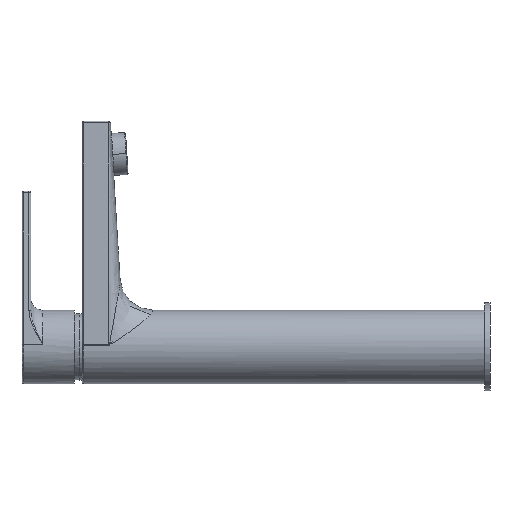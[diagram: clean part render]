
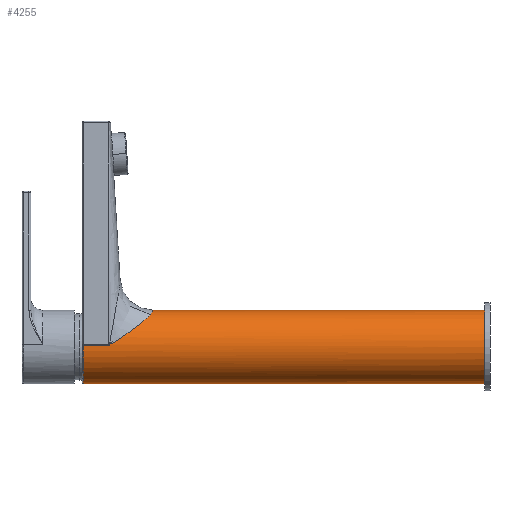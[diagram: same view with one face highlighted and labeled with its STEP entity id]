
A CAD part, left-side view. The second image highlights one B-rep face of the part: STEP entity #4255.
In plain terms, the highlighted cylindrical face has radius 21.01 mm (diameter 42.02 mm), a partial arc.
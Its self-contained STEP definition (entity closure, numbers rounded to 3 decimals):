
#7 = ORIENTED_EDGE ( 'NONE', *, *, #4767, .T. ) ;
#79 = CARTESIAN_POINT ( 'NONE',  ( -7.087, 83.268, 44.795 ) ) ;
#85 = CARTESIAN_POINT ( 'NONE',  ( -20.987, 108.052, 26. ) ) ;
#169 = CARTESIAN_POINT ( 'NONE',  ( 0., 82.997, 46.022 ) ) ;
#190 = CARTESIAN_POINT ( 'NONE',  ( -11.985, 85.23, 42.272 ) ) ;
#312 = CARTESIAN_POINT ( 'NONE',  ( -20.857, 104.899, 27.59 ) ) ;
#424 = CARTESIAN_POINT ( 'NONE',  ( -7.512, 83.341, 44.638 ) ) ;
#427 = VERTEX_POINT ( 'NONE', #5377 ) ;
#537 = CARTESIAN_POINT ( 'NONE',  ( -20.984, 107.658, 26.049 ) ) ;
#564 = ORIENTED_EDGE ( 'NONE', *, *, #2515, .T. ) ;
#639 = CARTESIAN_POINT ( 'NONE',  ( 0., 122.5, 4.002 ) ) ;
#645 = CARTESIAN_POINT ( 'NONE',  ( -20.987, 107.995, 25.998 ) ) ;
#860 = CARTESIAN_POINT ( 'NONE',  ( -11.659, 85.007, 42.495 ) ) ;
#897 = ORIENTED_EDGE ( 'NONE', *, *, #2771, .F. ) ;
#935 = CARTESIAN_POINT ( 'NONE',  ( 0., -107.004, 4.002 ) ) ;
#987 = CARTESIAN_POINT ( 'NONE',  ( -15.267, 88.474, 39.45 ) ) ;
#1084 = FACE_OUTER_BOUND ( 'NONE', #2015, .T. ) ;
#1102 = CARTESIAN_POINT ( 'NONE',  ( -14.287, 87.295, 40.421 ) ) ;
#1324 = CARTESIAN_POINT ( 'NONE',  ( -8.75, 83.621, 44.134 ) ) ;
#1331 = CARTESIAN_POINT ( 'NONE',  ( -19.588, 97.505, 32.629 ) ) ;
#1424 = VECTOR ( 'NONE', #2492, 1000. ) ;
#1452 = CARTESIAN_POINT ( 'NONE',  ( -18.124, 93.289, 35.701 ) ) ;
#1682 = CARTESIAN_POINT ( 'NONE',  ( -18.918, 95.37, 34.169 ) ) ;
#1746 = DIRECTION ( 'NONE',  ( 0., 0., 1. ) ) ;
#1885 = VERTEX_POINT ( 'NONE', #935 ) ;
#1900 = CARTESIAN_POINT ( 'NONE',  ( -20.534, 101.887, 29.573 ) ) ;
#1989 = CARTESIAN_POINT ( 'NONE',  ( 0., 123., 46.022 ) ) ;
#2011 = CARTESIAN_POINT ( 'NONE',  ( -0.901, 82.996, 46.007 ) ) ;
#2015 = EDGE_LOOP ( 'NONE', ( #897, #5226, #2719, #564, #7, #5444 ) ) ;
#2017 = CARTESIAN_POINT ( 'NONE',  ( -19.779, 98.225, 32.117 ) ) ;
#2116 = CARTESIAN_POINT ( 'NONE',  ( -5.803, 83.114, 45.21 ) ) ;
#2232 = CARTESIAN_POINT ( 'NONE',  ( -12.923, 85.938, 41.595 ) ) ;
#2343 = CARTESIAN_POINT ( 'NONE',  ( -9.526, 83.884, 43.757 ) ) ;
#2448 = VERTEX_POINT ( 'NONE', #169 ) ;
#2492 = DIRECTION ( 'NONE',  ( 0., -1., 0. ) ) ;
#2515 = EDGE_CURVE ( 'NONE', #4935, #4908, #3202, .T. ) ;
#2546 = CARTESIAN_POINT ( 'NONE',  ( 0., 123., 25.012 ) ) ;
#2578 = CARTESIAN_POINT ( 'NONE',  ( -20.928, 106.053, 26.877 ) ) ;
#2689 = CARTESIAN_POINT ( 'NONE',  ( -17.494, 91.948, 36.715 ) ) ;
#2713 = DIRECTION ( 'NONE',  ( 0., 1., 0. ) ) ;
#2719 = ORIENTED_EDGE ( 'NONE', *, *, #5597, .T. ) ;
#2728 = CARTESIAN_POINT ( 'NONE',  ( 0., 123., 4.002 ) ) ;
#2771 = EDGE_CURVE ( 'NONE', #2448, #6238, #6073, .T. ) ;
#2898 = CARTESIAN_POINT ( 'NONE',  ( -3.61, 83.007, 45.729 ) ) ;
#3124 = CARTESIAN_POINT ( 'NONE',  ( -15.031, 88.172, 39.695 ) ) ;
#3184 = CIRCLE ( 'NONE', #5414, 21.01 ) ;
#3202 = CIRCLE ( 'NONE', #6362, 21.01 ) ;
#3227 = CARTESIAN_POINT ( 'NONE',  ( -10.974, 84.589, 42.933 ) ) ;
#3316 = DIRECTION ( 'NONE',  ( 0., -1., 0. ) ) ;
#3350 = CARTESIAN_POINT ( 'NONE',  ( -20.948, 106.439, 26.642 ) ) ;
#3373 = CARTESIAN_POINT ( 'NONE',  ( 0., -107.004, 25.012 ) ) ;
#3454 = CARTESIAN_POINT ( 'NONE',  ( -0.45, 82.997, 46.022 ) ) ;
#3460 = CARTESIAN_POINT ( 'NONE',  ( -20.986, 107.826, 26.014 ) ) ;
#3562 = CARTESIAN_POINT ( 'NONE',  ( -20.976, 107.236, 26.211 ) ) ;
#3647 = AXIS2_PLACEMENT_3D ( 'NONE', #2546, #3316, #6522 ) ;
#3778 = CARTESIAN_POINT ( 'NONE',  ( -20.986, 107.882, 26.006 ) ) ;
#3887 = CARTESIAN_POINT ( 'NONE',  ( -6.234, 83.154, 45.081 ) ) ;
#4003 = CARTESIAN_POINT ( 'NONE',  ( -20.285, 100.406, 30.588 ) ) ;
#4107 = CARTESIAN_POINT ( 'NONE',  ( -13.493, 86.46, 41.132 ) ) ;
#4255 = ADVANCED_FACE ( 'NONE', ( #1084 ), #5618, .T. ) ;
#4336 = CARTESIAN_POINT ( 'NONE',  ( -20.983, 107.55, 26.085 ) ) ;
#4364 = LINE ( 'NONE', #5908, #4430 ) ;
#4430 = VECTOR ( 'NONE', #5250, 1000. ) ;
#4538 = CARTESIAN_POINT ( 'NONE',  ( 0., 82.997, 46.022 ) ) ;
#4574 = DIRECTION ( 'NONE',  ( 0., 0., 1. ) ) ;
#4655 = CARTESIAN_POINT ( 'NONE',  ( -20.79, 104.142, 28.082 ) ) ;
#4767 = EDGE_CURVE ( 'NONE', #4908, #1885, #5466, .T. ) ;
#4908 = VERTEX_POINT ( 'NONE', #639 ) ;
#4921 = EDGE_CURVE ( 'NONE', #2448, #427, #5990, .T. ) ;
#4935 = VERTEX_POINT ( 'NONE', #5431 ) ;
#4981 = CARTESIAN_POINT ( 'NONE',  ( -14.541, 87.582, 40.181 ) ) ;
#5096 = CARTESIAN_POINT ( 'NONE',  ( -2.258, 82.997, 45.905 ) ) ;
#5102 = CARTESIAN_POINT ( 'NONE',  ( -20.987, 108.109, 26. ) ) ;
#5226 = ORIENTED_EDGE ( 'NONE', *, *, #4921, .T. ) ;
#5250 = DIRECTION ( 'NONE',  ( 0., 1., 0. ) ) ;
#5363 = EDGE_CURVE ( 'NONE', #1885, #6238, #3184, .T. ) ;
#5377 = CARTESIAN_POINT ( 'NONE',  ( -20.987, 108.109, 26. ) ) ;
#5414 = AXIS2_PLACEMENT_3D ( 'NONE', #3373, #2713, #4574 ) ;
#5426 = CARTESIAN_POINT ( 'NONE',  ( -1.804, 82.996, 45.949 ) ) ;
#5431 = CARTESIAN_POINT ( 'NONE',  ( -20.987, 122.5, 26. ) ) ;
#5444 = ORIENTED_EDGE ( 'NONE', *, *, #5363, .T. ) ;
#5466 = LINE ( 'NONE', #2728, #1424 ) ;
#5500 = CARTESIAN_POINT ( 'NONE',  ( 0., -107.004, 46.022 ) ) ;
#5597 = EDGE_CURVE ( 'NONE', #427, #4935, #4364, .T. ) ;
#5618 = CYLINDRICAL_SURFACE ( 'NONE', #3647, 21.01 ) ;
#5645 = CARTESIAN_POINT ( 'NONE',  ( -16.354, 90.021, 38.216 ) ) ;
#5879 = CARTESIAN_POINT ( 'NONE',  ( -15.943, 89.392, 38.712 ) ) ;
#5908 = CARTESIAN_POINT ( 'NONE',  ( -20.987, 123., 26. ) ) ;
#5990 = B_SPLINE_CURVE_WITH_KNOTS ( 'NONE', 3,
 ( #4538, #3454, #2011, #5426, #5096, #2898, #6743, #2116, #3887, #79, #424, #1324, #2343, #6211, #3227, #860, #190, #2232, #4107, #1102, #4981, #3124, #987, #5879, #5645, #2689, #1452, #1682, #6546, #1331, #2017, #4003, #1900, #4655, #312, #2578, #3350, #6320, #3562, #4336, #537, #3460, #3778, #645, #85, #5102 ),
 .UNSPECIFIED., .F., .F.,
 ( 4, 2, 2, 2, 2, 2, 2, 2, 2, 2, 2, 2, 2, 2, 2, 2, 2, 2, 2, 2, 2, 2, 4 ),
 ( 0.043, 0.044, 0.046, 0.048, 0.05, 0.051, 0.054, 0.055, 0.057, 0.059, 0.061, 0.062, 0.065, 0.07, 0.073, 0.075, 0.081, 0.084, 0.085, 0.086, 0.086, 0.086, 0.086 ),
 .UNSPECIFIED. ) ;
#6073 = LINE ( 'NONE', #1989, #6851 ) ;
#6211 = CARTESIAN_POINT ( 'NONE',  ( -10.62, 84.398, 43.145 ) ) ;
#6238 = VERTEX_POINT ( 'NONE', #5500 ) ;
#6297 = DIRECTION ( 'NONE',  ( 0., -1., 0. ) ) ;
#6320 = CARTESIAN_POINT ( 'NONE',  ( -20.97, 107.035, 26.316 ) ) ;
#6362 = AXIS2_PLACEMENT_3D ( 'NONE', #6609, #6504, #1746 ) ;
#6504 = DIRECTION ( 'NONE',  ( 0., -1., 0. ) ) ;
#6522 = DIRECTION ( 'NONE',  ( 0., 0., -1. ) ) ;
#6546 = CARTESIAN_POINT ( 'NONE',  ( -19.158, 96.077, 33.655 ) ) ;
#6609 = CARTESIAN_POINT ( 'NONE',  ( 0., 122.5, 25.012 ) ) ;
#6743 = CARTESIAN_POINT ( 'NONE',  ( -4.497, 83.025, 45.555 ) ) ;
#6851 = VECTOR ( 'NONE', #6297, 1000. ) ;
